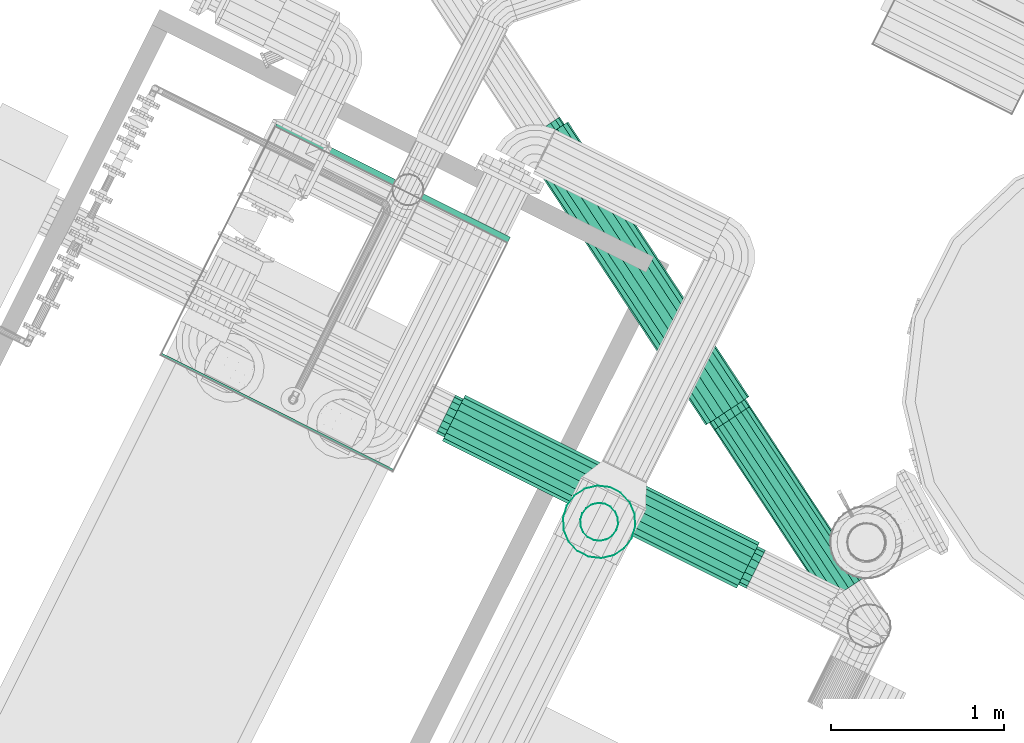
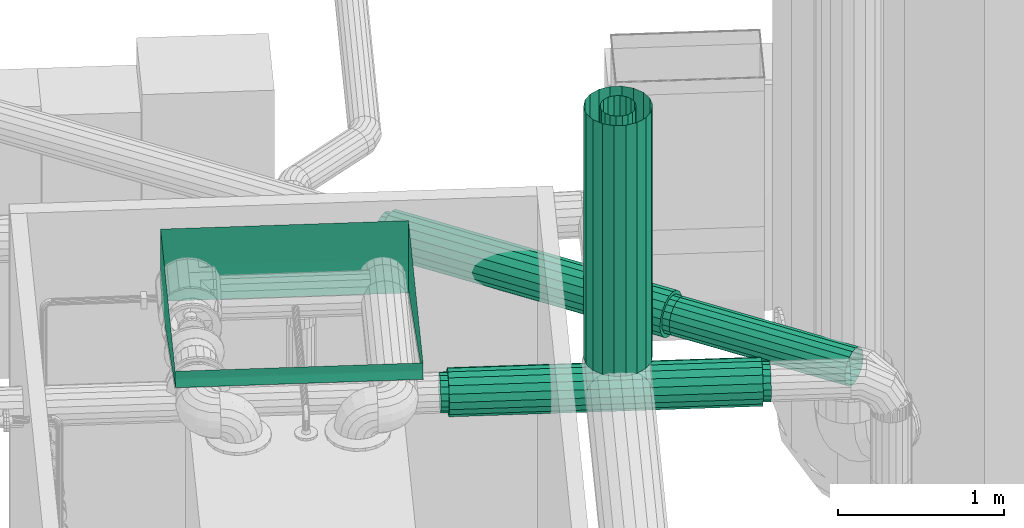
# One storey, part 8 of 206: 2 flow segments, 2 flow treatment devices, 1 flow fitting.
"""IFC2X3 building model written with IfcOpenShell, lengths in metres."""

from ifc_helpers import new_model, si_unit, derived_unit, direction, frame, origin, place, context, subcontext, project, spatial, face_set, surface_model, source, transform, mapped, material, type_object, type_shapes, element, save


model = new_model("IFC2X3")

# Units and contexts
model_context = context("Model", 3, precision=5.2338327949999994e-05, world=origin(), true_north=direction((0.0, 1.0)))
body_context = subcontext(model_context, "Body", "Model", "MODEL_VIEW")
ifc_project = project(units=[si_unit("LENGTHUNIT", "METRE"), si_unit("AREAUNIT", "SQUARE_METRE"), si_unit("VOLUMEUNIT", "CUBIC_METRE"), si_unit("MASSUNIT", "GRAM", prefix="KILO"), si_unit("PLANEANGLEUNIT", "RADIAN"), derived_unit("THERMALTRANSMITTANCEUNIT", [(si_unit("MASSUNIT", "GRAM", prefix="KILO"), 1), (si_unit("THERMODYNAMICTEMPERATUREUNIT", "KELVIN"), -1), (si_unit("TIMEUNIT", "SECOND"), -3)])], contexts=[model_context])

# Site, building, storey
site_placement = place(None, frame((0.0, 0.0, 0.0), z_axis=(0.0, 0.0, 1.0), x_axis=(0.8939966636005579, -0.4480736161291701, 0.0)))
site = spatial("IfcSite", under=ifc_project, at=site_placement, Name="Default", CompositionType="ELEMENT")
building_placement = place(site_placement, origin())
building = spatial("IfcBuilding", under=site, at=building_placement, CompositionType="ELEMENT")
storey_placement = place(building_placement, origin())
storey = spatial("IfcBuildingStorey", under=building, at=storey_placement, Name="Erdgeschoss", CompositionType="ELEMENT", Elevation=0.0)

# Flow treatment devices
ifc_material_1 = material(Name="IfcSurfaceStyle #280217")
distribution_element_type_1 = type_object("IfcDistributionElementType", Name="Telefonieschalldämpfer 282164:Telefonieschalldämpfer 282164", material=ifc_material_1)
shared_shape_1 = source(origin(), body_context, "Body", "SurfaceModel", [
    surface_model("IfcFaceBasedSurfaceModel", [(33.425259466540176, 8.794603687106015, 2.3249999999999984), (33.425259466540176, 8.837356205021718, 2.3174615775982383), (33.37525946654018, 8.837356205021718, 2.317461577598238), (33.37525946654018, 8.79460368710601, 2.3249999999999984), (33.425259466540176, 8.874952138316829, 2.2957555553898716), (33.37525946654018, 8.874952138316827, 2.2957555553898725), (33.425259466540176, 8.902856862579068, 2.2625), (33.37525946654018, 8.902856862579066, 2.2625000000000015), (33.425259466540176, 8.91770465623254, 2.2217060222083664), (33.37525946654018, 8.917704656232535, 2.2217060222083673), (33.425259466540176, 8.917704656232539, 2.1782939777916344), (33.37525946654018, 8.917704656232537, 2.1782939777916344), (33.425259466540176, 8.902856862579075, 2.1374999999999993), (33.37525946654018, 8.902856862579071, 2.1375000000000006), (33.425259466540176, 8.874952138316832, 2.104244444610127), (33.37525946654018, 8.874952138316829, 2.104244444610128), (33.425259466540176, 8.837356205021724, 2.0825384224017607), (33.37525946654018, 8.837356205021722, 2.0825384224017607), (33.425259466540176, 8.794603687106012, 2.0749999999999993), (33.37525946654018, 8.794603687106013, 2.0749999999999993), (33.425259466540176, 8.751851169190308, 2.082538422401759), (33.37525946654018, 8.751851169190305, 2.0825384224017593), (33.425259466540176, 8.714255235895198, 2.1042444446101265), (33.37525946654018, 8.714255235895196, 2.1042444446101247), (33.425259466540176, 8.686350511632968, 2.137499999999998), (33.37525946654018, 8.686350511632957, 2.137499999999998), (33.425259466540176, 8.671502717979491, 2.1782939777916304), (33.37525946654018, 8.671502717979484, 2.1782939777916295), (33.425259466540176, 8.671502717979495, 2.2217060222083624), (33.37525946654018, 8.671502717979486, 2.2217060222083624), (33.425259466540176, 8.686350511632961, 2.262499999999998), (33.37525946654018, 8.686350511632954, 2.2624999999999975), (33.425259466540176, 8.714255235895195, 2.2957555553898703), (33.37525946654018, 8.714255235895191, 2.2957555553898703), (33.425259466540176, 8.751851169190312, 2.317461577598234), (33.37525946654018, 8.751851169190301, 2.317461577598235), (33.37525946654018, 8.79460368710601, 2.349999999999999), (33.37525946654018, 8.84590670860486, 2.3409538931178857), (31.475259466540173, 8.84590670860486, 2.340953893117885), (31.475259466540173, 8.79460368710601, 2.3499999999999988), (33.37525946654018, 8.891021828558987, 2.3149066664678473), (31.475259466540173, 8.891021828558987, 2.3149066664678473), (33.37525946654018, 8.924507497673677, 2.275000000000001), (31.475259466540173, 8.924507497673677, 2.275000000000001), (33.37525946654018, 8.94232485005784, 2.2260472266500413), (31.475259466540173, 8.94232485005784, 2.2260472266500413), (33.37525946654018, 8.942324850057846, 2.1739527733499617), (31.475259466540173, 8.942324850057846, 2.1739527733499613), (33.37525946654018, 8.92450749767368, 2.1250000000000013), (31.475259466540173, 8.92450749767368, 2.125000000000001), (33.37525946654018, 8.891021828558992, 2.085093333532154), (31.475259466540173, 8.891021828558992, 2.0850933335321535), (33.37525946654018, 8.845906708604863, 2.0590461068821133), (31.475259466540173, 8.845906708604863, 2.0590461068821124), (33.37525946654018, 8.794603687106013, 2.0499999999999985), (31.475259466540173, 8.794603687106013, 2.0499999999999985), (33.37525946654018, 8.743300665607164, 2.059046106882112), (31.475259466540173, 8.743300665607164, 2.0590461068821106), (33.37525946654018, 8.69818554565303, 2.08509333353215), (31.475259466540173, 8.69818554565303, 2.08509333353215), (33.37525946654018, 8.664699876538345, 2.124999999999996), (31.475259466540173, 8.664699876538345, 2.1249999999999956), (33.37525946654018, 8.64688252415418, 2.1739527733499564), (31.475259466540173, 8.64688252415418, 2.1739527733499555), (33.37525946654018, 8.64688252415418, 2.226047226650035), (31.475259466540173, 8.64688252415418, 2.226047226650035), (33.37525946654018, 8.664699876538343, 2.274999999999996), (31.475259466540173, 8.664699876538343, 2.274999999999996), (33.37525946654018, 8.698185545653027, 2.3149066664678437), (31.475259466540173, 8.698185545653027, 2.3149066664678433), (33.37525946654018, 8.743300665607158, 2.3409538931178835), (31.475259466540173, 8.743300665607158, 2.3409538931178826), (33.37525946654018, 8.794603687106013, 2.199999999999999), (31.475259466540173, 8.794603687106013, 2.199999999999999), (31.475259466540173, 8.79460368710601, 2.3249999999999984), (31.475259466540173, 8.837356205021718, 2.3174615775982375), (31.425259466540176, 8.837356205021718, 2.317461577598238), (31.425259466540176, 8.79460368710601, 2.324999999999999), (31.475259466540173, 8.874952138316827, 2.295755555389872), (31.425259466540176, 8.874952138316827, 2.295755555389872), (31.475259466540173, 8.902856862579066, 2.2625), (31.425259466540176, 8.902856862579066, 2.2625), (31.475259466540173, 8.917704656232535, 2.221706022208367), (31.425259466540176, 8.917704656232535, 2.221706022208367), (31.475259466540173, 8.917704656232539, 2.1782939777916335), (31.425259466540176, 8.917704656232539, 2.1782939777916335), (31.475259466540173, 8.90285686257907, 2.1375), (31.425259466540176, 8.90285686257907, 2.1375), (31.475259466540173, 8.874952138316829, 2.104244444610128), (31.425259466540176, 8.874952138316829, 2.104244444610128), (31.475259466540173, 8.837356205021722, 2.0825384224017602), (31.425259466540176, 8.837356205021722, 2.0825384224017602), (31.475259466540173, 8.794603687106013, 2.074999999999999), (31.425259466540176, 8.794603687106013, 2.074999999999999), (31.475259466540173, 8.751851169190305, 2.0825384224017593), (31.425259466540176, 8.751851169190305, 2.0825384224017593), (31.475259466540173, 8.714255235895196, 2.1042444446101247), (31.425259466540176, 8.714255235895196, 2.1042444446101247), (31.475259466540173, 8.686350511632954, 2.1374999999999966), (31.425259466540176, 8.686350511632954, 2.1374999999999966), (31.475259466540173, 8.671502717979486, 2.1782939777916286), (31.425259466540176, 8.671502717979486, 2.1782939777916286), (31.475259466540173, 8.671502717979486, 2.2217060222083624), (31.425259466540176, 8.671502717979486, 2.2217060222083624), (31.475259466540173, 8.686350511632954, 2.2624999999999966), (31.425259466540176, 8.686350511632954, 2.2624999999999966), (31.475259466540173, 8.714255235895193, 2.2957555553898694), (31.425259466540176, 8.714255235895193, 2.2957555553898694), (31.475259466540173, 8.751851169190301, 2.3174615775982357), (31.425259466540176, 8.751851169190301, 2.3174615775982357)], [face_set([[[0, 1, 2, 3]], [[1, 4, 5, 2]], [[4, 6, 7, 5]], [[6, 8, 9, 7]], [[8, 10, 11, 9]], [[10, 12, 13, 11]], [[12, 14, 15, 13]], [[14, 16, 17, 15]], [[16, 18, 19, 17]], [[18, 20, 21, 19]], [[20, 22, 23, 21]], [[22, 24, 25, 23]], [[24, 26, 27, 25]], [[26, 28, 29, 27]], [[28, 30, 31, 29]], [[30, 32, 33, 31]], [[32, 34, 35, 33]], [[34, 0, 3, 35]], [[36, 37, 38, 39]], [[37, 40, 41, 38]], [[40, 42, 43, 41]], [[42, 44, 45, 43]], [[44, 46, 47, 45]], [[46, 48, 49, 47]], [[48, 50, 51, 49]], [[50, 52, 53, 51]], [[52, 54, 55, 53]], [[54, 56, 57, 55]], [[56, 58, 59, 57]], [[58, 60, 61, 59]], [[60, 62, 63, 61]], [[62, 64, 65, 63]], [[64, 66, 67, 65]], [[66, 68, 69, 67]], [[68, 70, 71, 69]], [[70, 36, 39, 71]], [[72, 37, 36]], [[72, 40, 37]], [[72, 42, 40]], [[72, 44, 42]], [[72, 46, 44]], [[72, 48, 46]], [[72, 50, 48]], [[72, 52, 50]], [[72, 54, 52]], [[72, 56, 54]], [[72, 58, 56]], [[72, 60, 58]], [[72, 62, 60]], [[72, 64, 62]], [[72, 66, 64]], [[72, 68, 66]], [[72, 70, 68]], [[72, 36, 70]], [[73, 71, 39]], [[73, 69, 71]], [[73, 67, 69]], [[73, 65, 67]], [[73, 63, 65]], [[73, 61, 63]], [[73, 59, 61]], [[73, 57, 59]], [[73, 55, 57]], [[73, 53, 55]], [[73, 51, 53]], [[73, 49, 51]], [[73, 47, 49]], [[73, 45, 47]], [[73, 43, 45]], [[73, 41, 43]], [[73, 38, 41]], [[73, 39, 38]], [[74, 75, 76, 77]], [[75, 78, 79, 76]], [[78, 80, 81, 79]], [[80, 82, 83, 81]], [[82, 84, 85, 83]], [[84, 86, 87, 85]], [[86, 88, 89, 87]], [[88, 90, 91, 89]], [[90, 92, 93, 91]], [[92, 94, 95, 93]], [[94, 96, 97, 95]], [[96, 98, 99, 97]], [[98, 100, 101, 99]], [[100, 102, 103, 101]], [[102, 104, 105, 103]], [[104, 106, 107, 105]], [[106, 108, 109, 107]], [[108, 74, 77, 109]]])]),
])
type_shapes(distribution_element_type_1, [shared_shape_1])
flow_treatment_device_1_placement = place(storey_placement, origin())
element("IfcFlowTreatmentDevice", 1, at=flow_treatment_device_1_placement, inside=storey, type_object=distribution_element_type_1, material=ifc_material_1, Name="Telefonieschalldämpfer", ObjectType="Telefonieschalldämpfer", context=body_context, shape_type="MappedRepresentation", body=[
    mapped(shared_shape_1, transform((0.0, 0.0, 0.0), scale=1.0)),
])
distribution_element_type_2 = type_object("IfcDistributionElementType", Name="Telefonieschalldämpfer 294102:Telefonieschalldämpfer 294102", material=ifc_material_1)
shared_shape_2 = source(origin(), body_context, "Body", "SurfaceModel", [
    surface_model("IfcFaceBasedSurfaceModel", [(32.85007829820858, 9.40514758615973, 2.200000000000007), (32.85384750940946, 9.411676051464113, 2.242752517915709), (32.810546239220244, 9.43667605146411, 2.2427525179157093), (32.80677702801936, 9.430147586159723, 2.2000000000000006), (32.864700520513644, 9.430474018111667, 2.2803484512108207), (32.821399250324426, 9.455474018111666, 2.2803484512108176), (32.88132829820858, 9.45927417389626, 2.3082531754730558), (32.83802702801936, 9.484274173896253, 2.3082531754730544), (32.90172528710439, 9.494602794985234, 2.3231009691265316), (32.85842401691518, 9.519602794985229, 2.3231009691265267), (32.923431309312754, 9.532198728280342, 2.3231009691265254), (32.88013003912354, 9.557198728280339, 2.323100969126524), (32.94382829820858, 9.567527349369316, 2.3082531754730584), (32.90052702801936, 9.592527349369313, 2.3082531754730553), (32.960456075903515, 9.596327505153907, 2.2803484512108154), (32.91715480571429, 9.621327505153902, 2.280348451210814), (32.97130908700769, 9.61512547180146, 2.242752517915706), (32.92800781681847, 9.640125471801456, 2.2427525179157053), (32.97507829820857, 9.62165393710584, 2.199999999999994), (32.931777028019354, 9.646653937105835, 2.199999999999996), (32.97130908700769, 9.615125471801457, 2.1572474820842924), (32.92800781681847, 9.64012547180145, 2.157247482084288), (32.96045607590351, 9.5963275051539, 2.1196515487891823), (32.91715480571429, 9.621327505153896, 2.1196515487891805), (32.94382829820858, 9.56752734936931, 2.0917468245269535), (32.900527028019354, 9.592527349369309, 2.0917468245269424), (32.923431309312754, 9.532198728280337, 2.0768990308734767), (32.88013003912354, 9.557198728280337, 2.076899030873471), (32.90172528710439, 9.494602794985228, 2.076899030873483), (32.85842401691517, 9.519602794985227, 2.076899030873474), (32.88132829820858, 9.459274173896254, 2.0917468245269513), (32.83802702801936, 9.484274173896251, 2.0917468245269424), (32.86470052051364, 9.430474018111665, 2.119651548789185), (32.821399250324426, 9.45547401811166, 2.119651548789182), (32.85384750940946, 9.411676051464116, 2.1572474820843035), (32.810546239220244, 9.43667605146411, 2.1572474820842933), (32.794277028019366, 9.408496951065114, 2.200000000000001), (32.79880008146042, 9.416331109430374, 2.2513030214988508), (31.153351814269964, 10.366331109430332, 2.2513030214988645), (31.148828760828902, 10.358496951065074, 2.2000000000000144), (32.81182369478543, 9.43888866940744, 2.2964181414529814), (31.16637542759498, 10.388888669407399, 2.2964181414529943), (32.83177702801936, 9.473448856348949, 2.3299038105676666), (31.186328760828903, 10.423448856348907, 2.329903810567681), (32.85625341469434, 9.51584320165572, 2.34772116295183), (31.21080514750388, 10.465843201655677, 2.3477211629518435), (32.88230064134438, 9.560958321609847, 2.34772116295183), (31.23685237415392, 10.510958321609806, 2.3477211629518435), (32.906777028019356, 9.603352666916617, 2.329903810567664), (31.2613287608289, 10.553352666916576, 2.3299038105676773), (32.92673036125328, 9.637912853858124, 2.2964181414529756), (31.281282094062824, 10.587912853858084, 2.2964181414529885), (32.9397539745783, 9.66047041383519, 2.2513030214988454), (31.29430570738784, 10.61047041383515, 2.2513030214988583), (32.94427702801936, 9.668304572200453, 2.1999999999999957), (31.298828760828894, 10.618304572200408, 2.200000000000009), (32.9397539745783, 9.66047041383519, 2.1486969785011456), (31.29430570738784, 10.610470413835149, 2.1486969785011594), (32.92673036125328, 9.637912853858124, 2.1035818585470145), (31.28128209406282, 10.587912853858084, 2.1035818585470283), (32.906777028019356, 9.603352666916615, 2.070096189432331), (31.2613287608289, 10.553352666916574, 2.0700961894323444), (32.88230064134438, 9.560958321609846, 2.0522788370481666), (31.23685237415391, 10.510958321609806, 2.05227883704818), (32.856253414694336, 9.515843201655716, 2.0522788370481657), (31.21080514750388, 10.465843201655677, 2.052278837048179), (32.83177702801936, 9.473448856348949, 2.0700961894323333), (31.1863287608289, 10.423448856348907, 2.0700961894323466), (32.81182369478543, 9.43888866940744, 2.103581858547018), (31.16637542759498, 10.388888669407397, 2.103581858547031), (32.79880008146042, 9.416331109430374, 2.148696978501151), (31.153351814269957, 10.366331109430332, 2.1486969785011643), (32.86927702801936, 9.538400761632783, 2.199999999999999), (31.223828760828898, 10.48840076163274, 2.200000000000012), (31.1613287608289, 10.38014758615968, 2.2000000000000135), (31.165097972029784, 10.386676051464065, 2.2427525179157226), (31.121796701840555, 10.411676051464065, 2.242752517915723), (31.118027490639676, 10.405147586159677, 2.200000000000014), (31.175950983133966, 10.405474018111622, 2.2803484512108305), (31.132649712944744, 10.430474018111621, 2.280348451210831), (31.1925787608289, 10.434274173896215, 2.30825317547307), (31.149277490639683, 10.459274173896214, 2.30825317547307), (31.212975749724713, 10.469602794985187, 2.3231009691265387), (31.169674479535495, 10.494602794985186, 2.3231009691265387), (31.23468177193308, 10.507198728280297, 2.3231009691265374), (31.19138050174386, 10.532198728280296, 2.3231009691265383), (31.255078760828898, 10.542527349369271, 2.308253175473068), (31.211777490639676, 10.56752734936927, 2.308253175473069), (31.271706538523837, 10.571327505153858, 2.2803484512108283), (31.228405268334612, 10.596327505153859, 2.280348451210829), (31.28255954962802, 10.590125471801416, 2.242752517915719), (31.239258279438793, 10.615125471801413, 2.242752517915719), (31.286328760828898, 10.596653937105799, 2.2000000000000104), (31.243027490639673, 10.621653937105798, 2.2000000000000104), (31.282559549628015, 10.590125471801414, 2.1572474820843), (31.239258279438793, 10.615125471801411, 2.1572474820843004), (31.271706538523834, 10.57132750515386, 2.119651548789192), (31.22840526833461, 10.596327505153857, 2.119651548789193), (31.255078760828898, 10.542527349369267, 2.091746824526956), (31.211777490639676, 10.567527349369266, 2.091746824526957), (31.23468177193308, 10.507198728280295, 2.0768990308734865), (31.19138050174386, 10.532198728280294, 2.076899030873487), (31.212975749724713, 10.469602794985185, 2.0768990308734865), (31.169674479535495, 10.494602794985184, 2.076899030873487), (31.192578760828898, 10.43427417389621, 2.0917468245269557), (31.149277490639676, 10.459274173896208, 2.091746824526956), (31.175950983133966, 10.40547401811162, 2.119651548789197), (31.13264971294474, 10.43047401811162, 2.119651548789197), (31.165097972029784, 10.386676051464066, 2.157247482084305), (31.12179670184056, 10.411676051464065, 2.1572474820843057)], [face_set([[[0, 1, 2, 3]], [[1, 4, 5, 2]], [[4, 6, 7, 5]], [[6, 8, 9, 7]], [[8, 10, 11, 9]], [[10, 12, 13, 11]], [[12, 14, 15, 13]], [[14, 16, 17, 15]], [[16, 18, 19, 17]], [[18, 20, 21, 19]], [[20, 22, 23, 21]], [[22, 24, 25, 23]], [[24, 26, 27, 25]], [[26, 28, 29, 27]], [[28, 30, 31, 29]], [[30, 32, 33, 31]], [[32, 34, 35, 33]], [[34, 0, 3, 35]], [[36, 37, 38, 39]], [[37, 40, 41, 38]], [[40, 42, 43, 41]], [[42, 44, 45, 43]], [[44, 46, 47, 45]], [[46, 48, 49, 47]], [[48, 50, 51, 49]], [[50, 52, 53, 51]], [[52, 54, 55, 53]], [[54, 56, 57, 55]], [[56, 58, 59, 57]], [[58, 60, 61, 59]], [[60, 62, 63, 61]], [[62, 64, 65, 63]], [[64, 66, 67, 65]], [[66, 68, 69, 67]], [[68, 70, 71, 69]], [[70, 36, 39, 71]], [[72, 37, 36]], [[72, 40, 37]], [[72, 42, 40]], [[72, 44, 42]], [[72, 46, 44]], [[72, 48, 46]], [[72, 50, 48]], [[72, 52, 50]], [[72, 54, 52]], [[72, 56, 54]], [[72, 58, 56]], [[72, 60, 58]], [[72, 62, 60]], [[72, 64, 62]], [[72, 66, 64]], [[72, 68, 66]], [[72, 70, 68]], [[72, 36, 70]], [[73, 71, 39]], [[73, 69, 71]], [[73, 67, 69]], [[73, 65, 67]], [[73, 63, 65]], [[73, 61, 63]], [[73, 59, 61]], [[73, 57, 59]], [[73, 55, 57]], [[73, 53, 55]], [[73, 51, 53]], [[73, 49, 51]], [[73, 47, 49]], [[73, 45, 47]], [[73, 43, 45]], [[73, 41, 43]], [[73, 38, 41]], [[73, 39, 38]], [[74, 75, 76, 77]], [[75, 78, 79, 76]], [[78, 80, 81, 79]], [[80, 82, 83, 81]], [[82, 84, 85, 83]], [[84, 86, 87, 85]], [[86, 88, 89, 87]], [[88, 90, 91, 89]], [[90, 92, 93, 91]], [[92, 94, 95, 93]], [[94, 96, 97, 95]], [[96, 98, 99, 97]], [[98, 100, 101, 99]], [[100, 102, 103, 101]], [[102, 104, 105, 103]], [[104, 106, 107, 105]], [[106, 108, 109, 107]], [[108, 74, 77, 109]]])]),
])
type_shapes(distribution_element_type_2, [shared_shape_2])
flow_treatment_device_2_placement = place(storey_placement, origin())
element("IfcFlowTreatmentDevice", 2, at=flow_treatment_device_2_placement, inside=storey, type_object=distribution_element_type_2, material=ifc_material_1, Name="Telefonieschalldämpfer", ObjectType="Telefonieschalldämpfer", context=body_context, shape_type="MappedRepresentation", body=[
    mapped(shared_shape_2, transform((0.0, 0.0, 0.0), scale=1.0)),
])

# Flow segments
ifc_material_2 = material(Name="IfcSurfaceStyle #251447")
distribution_element_type_3 = type_object("IfcDistributionElementType", Name="Wickelfalzrohr 294125:Wickelfalzrohr 294125", material=ifc_material_2)
shared_shape_3 = source(origin(), body_context, "Body", "SurfaceModel", [
    surface_model("IfcFaceBasedSurfaceModel", [(33.878565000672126, 8.811350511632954, 2.200000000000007), (33.88233421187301, 8.817878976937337, 2.242752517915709), (32.8538475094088, 9.411676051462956, 2.242752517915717), (32.85007829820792, 9.40514758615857, 2.20000000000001), (33.89318722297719, 8.836676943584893, 2.2803484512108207), (32.864700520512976, 9.430474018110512, 2.2803484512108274), (33.909815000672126, 8.865477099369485, 2.3082531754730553), (32.88132829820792, 9.459274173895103, 2.308253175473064), (33.93021198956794, 8.90080572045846, 2.3231009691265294), (32.90172528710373, 9.494602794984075, 2.3231009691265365), (33.9519180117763, 8.938401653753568, 2.3231009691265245), (32.9234313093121, 9.532198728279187, 2.323100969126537), (33.972315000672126, 8.973730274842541, 2.3082531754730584), (32.943828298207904, 9.567527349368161, 2.308253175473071), (33.98894277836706, 9.002530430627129, 2.2803484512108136), (32.96045607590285, 9.596327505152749, 2.280348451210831), (33.999795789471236, 9.021328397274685, 2.2427525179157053), (32.97130908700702, 9.615125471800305, 2.2427525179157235), (34.00356500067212, 9.027856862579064, 2.1999999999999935), (32.97507829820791, 9.621653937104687, 2.2000000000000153), (33.999795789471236, 9.021328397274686, 2.1572474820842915), (32.97130908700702, 9.61512547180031, 2.157247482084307), (33.988942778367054, 9.002530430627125, 2.119651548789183), (32.96045607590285, 9.596327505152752, 2.119651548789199), (33.972315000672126, 8.973730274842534, 2.0917468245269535), (32.94382829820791, 9.567527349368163, 2.0917468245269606), (33.9519180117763, 8.938401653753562, 2.076899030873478), (32.9234313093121, 9.532198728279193, 2.0768990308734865), (33.93021198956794, 8.900805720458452, 2.076899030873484), (32.90172528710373, 9.49460279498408, 2.0768990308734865), (33.909815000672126, 8.86547709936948, 2.09174682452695), (32.88132829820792, 9.459274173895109, 2.091746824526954), (33.89318722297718, 8.836676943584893, 2.1196515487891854), (32.86470052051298, 9.430474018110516, 2.1196515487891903), (33.88233421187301, 8.81787897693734, 2.157247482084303), (32.8538475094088, 9.411676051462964, 2.1572474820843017)], [face_set([[[0, 1, 2, 3]], [[1, 4, 5, 2]], [[4, 6, 7, 5]], [[6, 8, 9, 7]], [[8, 10, 11, 9]], [[10, 12, 13, 11]], [[12, 14, 15, 13]], [[14, 16, 17, 15]], [[16, 18, 19, 17]], [[18, 20, 21, 19]], [[20, 22, 23, 21]], [[22, 24, 25, 23]], [[24, 26, 27, 25]], [[26, 28, 29, 27]], [[28, 30, 31, 29]], [[30, 32, 33, 31]], [[32, 34, 35, 33]], [[34, 0, 3, 35]]])]),
])
type_shapes(distribution_element_type_3, [shared_shape_3])
flow_segment_1_placement = place(storey_placement, origin())
element("IfcFlowSegment", 3, at=flow_segment_1_placement, inside=storey, type_object=distribution_element_type_3, material=ifc_material_2, Name="Wickelfalzrohr", ObjectType="Wickelfalzrohr", context=body_context, shape_type="MappedRepresentation", body=[
    mapped(shared_shape_3, transform((0.0, 0.0, 0.0), scale=1.0)),
])
ifc_material_3 = material(Name="IfcSurfaceStyle #9317")
distribution_element_type_4 = type_object("IfcDistributionElementType", Name="Stahlrohr nach DIN 2448 346850:Stahlrohr nach DIN 2448 346850", material=ifc_material_3)
shared_shape_4 = source(origin(), body_context, "Body", "SurfaceModel", [
    surface_model("IfcFaceBasedSurfaceModel", [(32.60494487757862, 8.633986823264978, 2.532), (32.598338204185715, 8.671455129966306, 2.532), (32.598338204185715, 8.671455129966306, 4.381549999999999), (32.60494487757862, 8.633986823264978, 4.381549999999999), (32.57931504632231, 8.704404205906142, 2.532), (32.5793150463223, 8.70440420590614, 4.381549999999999), (32.55016987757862, 8.728859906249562, 2.532), (32.55016987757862, 8.728859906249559, 4.381549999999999), (32.514418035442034, 8.741872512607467, 2.532), (32.51441803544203, 8.741872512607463, 4.381549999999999), (32.4763717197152, 8.741872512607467, 2.532), (32.4763717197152, 8.74187251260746, 4.381549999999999), (32.44061987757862, 8.728859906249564, 2.532), (32.44061987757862, 8.728859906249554, 4.381549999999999), (32.41147470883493, 8.704404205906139, 2.532), (32.41147470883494, 8.70440420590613, 4.381549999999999), (32.39245155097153, 8.671455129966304, 2.532), (32.39245155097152, 8.67145512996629, 4.381549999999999), (32.38584487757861, 8.633986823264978, 2.532), (32.38584487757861, 8.633986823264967, 4.381549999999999), (32.39245155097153, 8.59651851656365, 2.532), (32.39245155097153, 8.596518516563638, 4.381549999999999), (32.41147470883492, 8.563569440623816, 2.532), (32.411474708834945, 8.563569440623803, 4.381549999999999), (32.44061987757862, 8.53911374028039, 2.532), (32.44061987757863, 8.539113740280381, 4.381549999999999), (32.4763717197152, 8.52610113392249, 2.532), (32.47637171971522, 8.526101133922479, 4.381549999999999), (32.514418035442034, 8.52610113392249, 2.532), (32.514418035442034, 8.526101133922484, 4.381549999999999), (32.55016987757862, 8.539113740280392, 2.532), (32.550169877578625, 8.539113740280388, 4.381549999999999), (32.57931504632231, 8.56356944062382, 2.532), (32.579315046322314, 8.563569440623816, 4.381549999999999), (32.598338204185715, 8.596518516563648, 2.532), (32.598338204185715, 8.596518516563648, 4.381549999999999), (32.70494487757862, 8.63398682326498, 2.532), (32.69230746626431, 8.705657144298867, 2.532), (32.6923074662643, 8.705657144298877, 4.381549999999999), (32.70494487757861, 8.633986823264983, 4.381549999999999), (32.655919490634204, 8.768682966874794, 2.532), (32.655919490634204, 8.768682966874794, 4.381549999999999), (32.60016987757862, 8.815462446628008, 2.532), (32.60016987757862, 8.815462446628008, 4.381549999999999), (32.531782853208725, 8.84035328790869, 2.532), (32.53178285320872, 8.840353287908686, 4.381549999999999), (32.45900690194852, 8.840353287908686, 2.532), (32.4590069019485, 8.840353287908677, 4.381549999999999), (32.39061987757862, 8.815462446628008, 2.532), (32.39061987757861, 8.815462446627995, 4.381549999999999), (32.33487026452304, 8.768682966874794, 2.532), (32.33487026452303, 8.768682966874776, 4.381549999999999), (32.29848228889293, 8.70565714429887, 2.532), (32.29848228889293, 8.705657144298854, 4.381549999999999), (32.28584487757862, 8.633986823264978, 2.532), (32.28584487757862, 8.633986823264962, 4.381549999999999), (32.29848228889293, 8.562316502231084, 2.532), (32.29848228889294, 8.562316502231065, 4.381549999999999), (32.33487026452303, 8.499290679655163, 2.532), (32.33487026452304, 8.49929067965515, 4.381549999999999), (32.39061987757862, 8.452511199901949, 2.532), (32.39061987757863, 8.452511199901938, 4.381549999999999), (32.45900690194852, 8.427620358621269, 2.532), (32.45900690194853, 8.427620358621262, 4.381549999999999), (32.531782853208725, 8.42762035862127, 2.532), (32.53178285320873, 8.427620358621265, 4.381549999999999), (32.60016987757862, 8.452511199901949, 2.532), (32.600169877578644, 8.45251119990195, 4.381549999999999), (32.655919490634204, 8.499290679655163, 2.532), (32.65591949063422, 8.499290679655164, 4.381549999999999), (32.69230746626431, 8.562316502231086, 2.532), (32.69230746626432, 8.562316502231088, 4.381549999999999)], [face_set([[[0, 1, 2, 3]], [[1, 4, 5, 2]], [[4, 6, 7, 5]], [[6, 8, 9, 7]], [[8, 10, 11, 9]], [[10, 12, 13, 11]], [[12, 14, 15, 13]], [[14, 16, 17, 15]], [[16, 18, 19, 17]], [[18, 20, 21, 19]], [[20, 22, 23, 21]], [[22, 24, 25, 23]], [[24, 26, 27, 25]], [[26, 28, 29, 27]], [[28, 30, 31, 29]], [[30, 32, 33, 31]], [[32, 34, 35, 33]], [[34, 0, 3, 35]], [[36, 37, 38, 39]], [[37, 40, 41, 38]], [[40, 42, 43, 41]], [[42, 44, 45, 43]], [[44, 46, 47, 45]], [[46, 48, 49, 47]], [[48, 50, 51, 49]], [[50, 52, 53, 51]], [[52, 54, 55, 53]], [[54, 56, 57, 55]], [[56, 58, 59, 57]], [[58, 60, 61, 59]], [[60, 62, 63, 61]], [[62, 64, 65, 63]], [[64, 66, 67, 65]], [[66, 68, 69, 67]], [[68, 70, 71, 69]], [[70, 36, 39, 71]]])]),
])
type_shapes(distribution_element_type_4, [shared_shape_4])
flow_segment_2_placement = place(storey_placement, origin())
element("IfcFlowSegment", 4, at=flow_segment_2_placement, inside=storey, type_object=distribution_element_type_4, material=ifc_material_3, Name="Stahlrohr nach DIN 2448", ObjectType="Stahlrohr nach DIN 2448", context=body_context, shape_type="MappedRepresentation", body=[
    mapped(shared_shape_4, transform((0.0, 0.0, 0.0), scale=1.0)),
])

# Flow fitting
ifc_material_4 = material(Name="IfcSurfaceStyle #271571")
distribution_element_type_5 = type_object("IfcDistributionElementType", Name="Bogen asymmetrisch 852461:Bogen asymmetrisch 852461", material=ifc_material_4)
shared_shape_5 = source(origin(), body_context, "Body", "SurfaceModel", [
    surface_model("IfcFaceBasedSurfaceModel", [(29.800000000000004, 8.373869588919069, 2.717682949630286), (29.800000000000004, 8.373869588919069, 2.667682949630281), (31.300000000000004, 8.373869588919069, 2.667682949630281), (31.300000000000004, 8.373869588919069, 2.7176829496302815), (31.300000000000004, 8.372165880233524, 2.6547419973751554), (31.300000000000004, 8.373441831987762, 2.661156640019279), (29.800000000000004, 8.373441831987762, 2.661156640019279), (29.800000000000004, 8.372165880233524, 2.6547419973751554), (29.800000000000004, 8.359224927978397, 2.6064457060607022), (31.300000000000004, 8.3592249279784, 2.606445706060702), (29.800000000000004, 9.837091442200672, 2.2104525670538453), (29.800000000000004, 9.850032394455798, 2.258748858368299), (31.300000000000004, 9.850032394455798, 2.258748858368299), (31.300000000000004, 9.837091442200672, 2.2104525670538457), (31.300000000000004, 9.87386958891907, 2.4398103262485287), (31.300000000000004, 9.867884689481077, 2.3484984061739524), (29.800000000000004, 9.867884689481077, 2.3484984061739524), (29.800000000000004, 9.87386958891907, 2.4398103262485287), (29.800000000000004, 9.87386958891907, 2.71768294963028), (31.300000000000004, 9.87386958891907, 2.7176829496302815)], [face_set([[[0, 1, 2, 3]], [[4, 5, 6, 7]], [[5, 2, 1, 6]], [[7, 8, 9, 4]], [[10, 11, 12, 13]], [[14, 15, 16, 17]], [[15, 12, 11, 16]], [[17, 18, 19, 14]], [[19, 3, 2]], [[19, 2, 5]], [[19, 5, 4]], [[19, 4, 9]], [[19, 9, 13]], [[19, 13, 12]], [[19, 12, 15]], [[19, 15, 14]], [[1, 0, 18]], [[6, 1, 18]], [[7, 6, 18]], [[8, 7, 18]], [[10, 8, 18]], [[11, 10, 18]], [[16, 11, 18]], [[17, 16, 18]]])]),
])
type_shapes(distribution_element_type_5, [shared_shape_5])
flow_fitting_placement = place(storey_placement, origin())
element("IfcFlowFitting", 5, at=flow_fitting_placement, inside=storey, type_object=distribution_element_type_5, material=ifc_material_4, Name="Bogen asymmetrisch", ObjectType="Bogen asymmetrisch", context=body_context, shape_type="MappedRepresentation", body=[
    mapped(shared_shape_5, transform((0.0, 0.0, 0.0), scale=1.0)),
])

save(model, "model.ifc")
